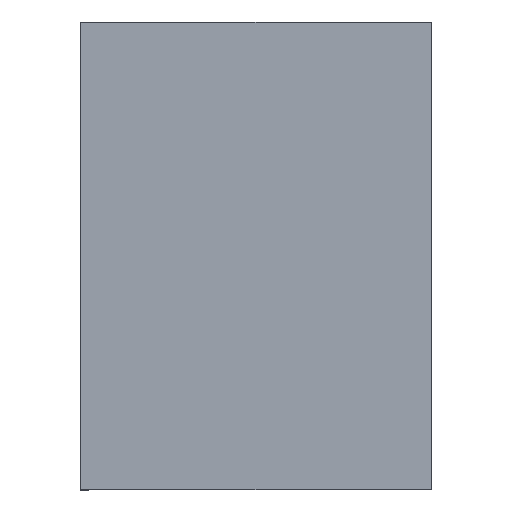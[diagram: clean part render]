
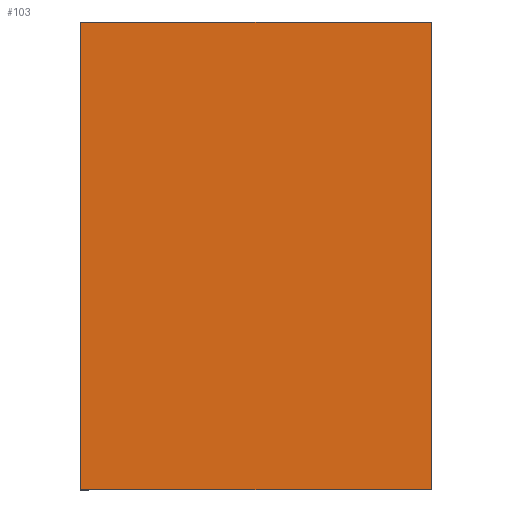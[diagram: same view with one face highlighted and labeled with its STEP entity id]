
A CAD part, top view. The second image highlights one B-rep face of the part: STEP entity #103.
In plain terms, the highlighted planar face has unit normal (0, 0, 1).
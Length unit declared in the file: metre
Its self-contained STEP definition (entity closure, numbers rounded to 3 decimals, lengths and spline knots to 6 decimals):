
#32=ORIENTED_EDGE('',*,*,#47,.T.);
#33=ORIENTED_EDGE('',*,*,#44,.T.);
#34=ORIENTED_EDGE('',*,*,#41,.T.);
#35=ORIENTED_EDGE('',*,*,#38,.T.);
#38=EDGE_CURVE('',#51,#50,#58,.T.);
#41=EDGE_CURVE('',#53,#51,#61,.T.);
#44=EDGE_CURVE('',#55,#53,#64,.F.);
#47=EDGE_CURVE('',#50,#55,#67,.F.);
#50=VERTEX_POINT('',#147);
#51=VERTEX_POINT('',#149);
#53=VERTEX_POINT('',#155);
#55=VERTEX_POINT('',#161);
#58=LINE('',#148,#70);
#61=LINE('',#154,#73);
#64=LINE('',#160,#76);
#67=LINE('',#165,#79);
#70=VECTOR('',#121,1.);
#73=VECTOR('',#126,1.);
#76=VECTOR('',#131,1.);
#79=VECTOR('',#136,1.);
#85=EDGE_LOOP('',(#32,#33,#34,#35));
#91=FACE_BOUND('',#85,.T.);
#97=PLANE('',#114);
#103=ADVANCED_FACE('',(#91),#97,.F.);
#114=AXIS2_PLACEMENT_3D('',#167,#139,#140);
#121=DIRECTION('',(-1.,0.,0.));
#126=DIRECTION('',(0.,1.,0.));
#131=DIRECTION('',(-1.,0.,0.));
#136=DIRECTION('',(0.,1.,0.));
#139=DIRECTION('',(0.,0.,-1.));
#140=DIRECTION('',(-1.,0.,0.));
#147=CARTESIAN_POINT('',(0.010998,0.00199,-0.03));
#148=CARTESIAN_POINT('',(0.016895,0.00199,-0.03));
#149=CARTESIAN_POINT('',(0.013998,0.00199,-0.03));
#154=CARTESIAN_POINT('',(0.013998,-0.014649,-0.03));
#155=CARTESIAN_POINT('',(0.013998,-0.00201,-0.03));
#160=CARTESIAN_POINT('',(0.016895,-0.00201,-0.03));
#161=CARTESIAN_POINT('',(0.010998,-0.00201,-0.03));
#165=CARTESIAN_POINT('',(0.010998,-0.014649,-0.03));
#167=CARTESIAN_POINT('',(0.016895,-0.014649,-0.03));
